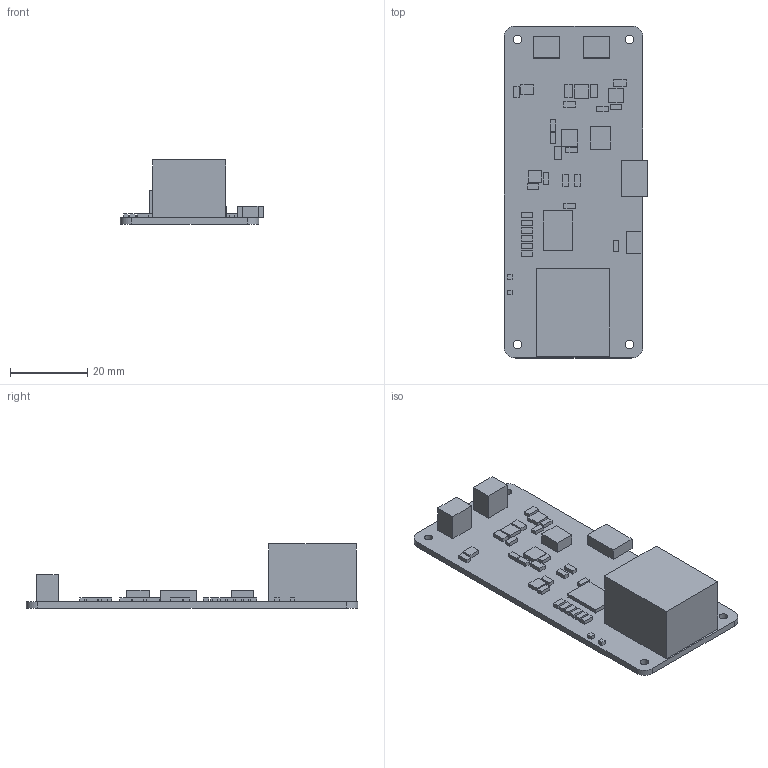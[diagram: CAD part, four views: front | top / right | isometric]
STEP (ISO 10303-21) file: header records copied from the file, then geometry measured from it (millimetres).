
FILE_DESCRIPTION(('Open CASCADE Model'),'2;1');
FILE_NAME('Open CASCADE Shape Model','2026-09-08T15:03:28',('Author'),( 'Open CASCADE'),'Open CASCADE STEP processor 7.9','Open CASCADE 7.9' ,'Unknown');
FILE_SCHEMA(('AUTOMOTIVE_DESIGN { 1 0 10303 214 1 1 1 1 }'));
Length unit declared in the file: millimetre
Products named in the file (2): =>[0:1:1:2]; REFERENCE populated PCB - provisional component envelopes
Assembly tree (1 placements, depth 2):
  =>[0:1:1:2]
    REFERENCE populated PCB - provisional component envelopes
Bounding box: 37.3 x 86 x 16.62 mm (x, y, z)
Volume: 12545.7 mm3; surface area: 8745.8 mm2
Topology: 1 solids, 1 shells, 200 faces, 484 edges, 322 vertices
Faces by surface type: plane 192, cylinder 8
Full cylindrical faces by diameter (mm): 2.2 x4
Entity records: 12104 total; most frequent: CARTESIAN_POINT 2024, DIRECTION 1864, LINE 1420, VECTOR 1420, ORIENTED_EDGE 968, PCURVE 968, DEFINITIONAL_REPRESENTATION 968, EDGE_CURVE 484
